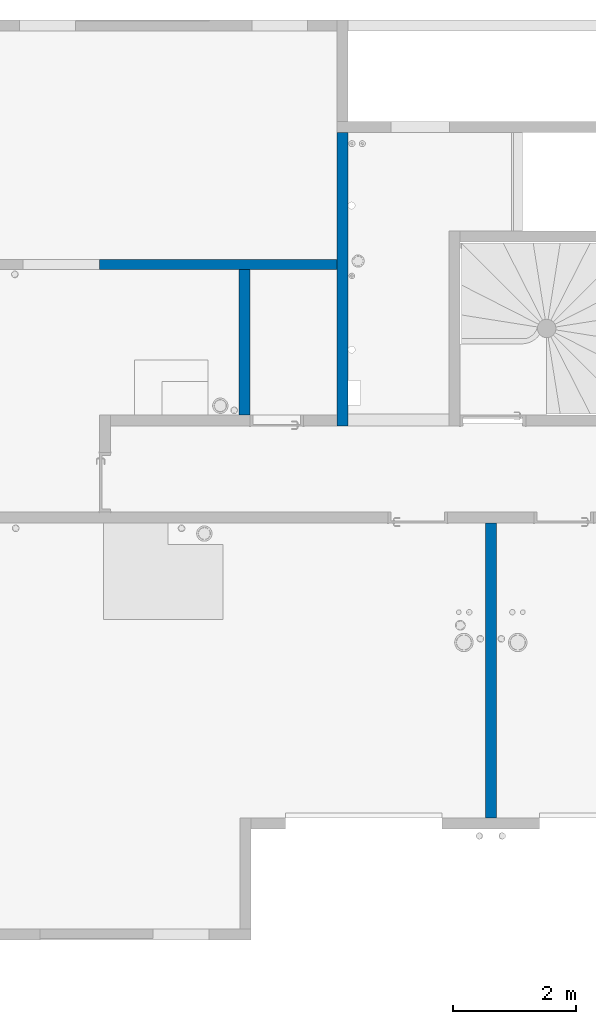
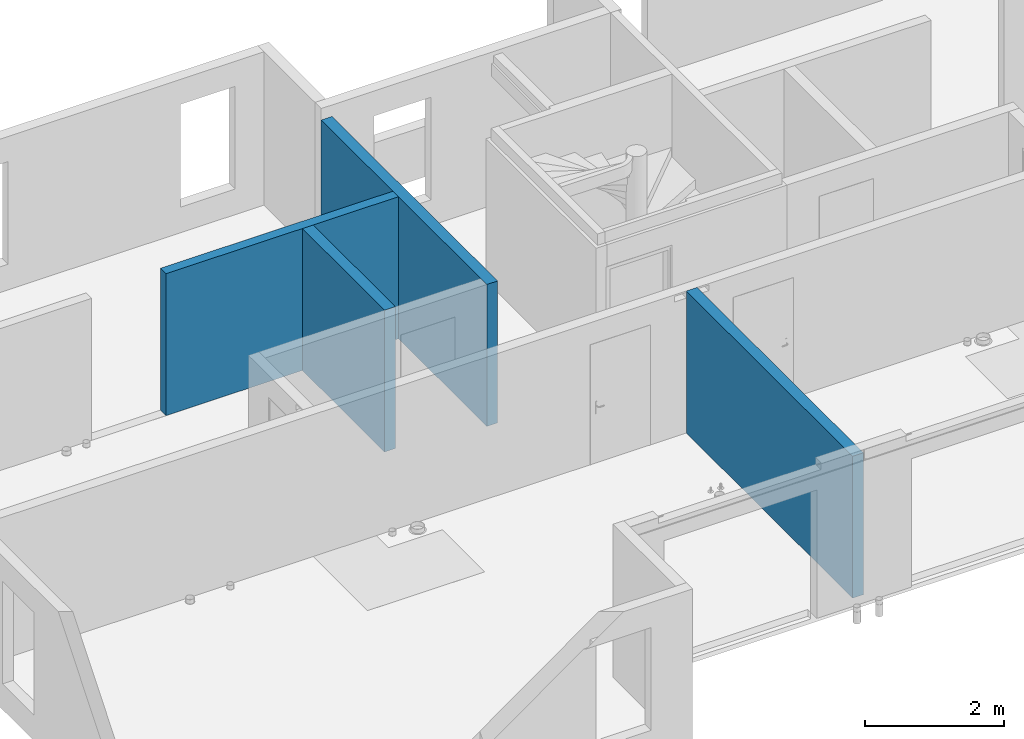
# One storey, part 8 of 30: 4 walls.
"""IFC2X3 building model written with IfcOpenShell, lengths in centimetres."""

from ifc_helpers import new_model, entity, si_unit, converted_unit, derived_unit, direction, frame, frame_2d, origin, place, context, subcontext, project, spatial, rectangle, extrude, material, layer, layer_set, layer_usage, type_object, element, save


model = new_model("IFC2X3")

# Units and contexts
model_context = context("Model", 3, precision=0.001, world=origin(), true_north=direction((6.12303176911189e-17, 1.0)))
body_context = subcontext(model_context, "Body", "Model", "MODEL_VIEW")
ifc_project = project(units=[si_unit("LENGTHUNIT", "METRE", prefix="CENTI"), si_unit("AREAUNIT", "SQUARE_METRE"), si_unit("VOLUMEUNIT", "CUBIC_METRE"), converted_unit("PLANEANGLEUNIT", "DEGREE", entity("IfcRatioMeasure", 0.0174532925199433), si_unit("PLANEANGLEUNIT", "RADIAN"), dimensions=[0, 0, 0, 0, 0, 0, 0]), si_unit("MASSUNIT", "GRAM", prefix="KILO"), derived_unit("MASSDENSITYUNIT", [(si_unit("MASSUNIT", "GRAM", prefix="KILO"), 1), (si_unit("LENGTHUNIT", "METRE"), -3)]), si_unit("TIMEUNIT", "SECOND"), si_unit("FREQUENCYUNIT", "HERTZ"), si_unit("THERMODYNAMICTEMPERATUREUNIT", "DEGREE_CELSIUS"), derived_unit("THERMALTRANSMITTANCEUNIT", [(si_unit("MASSUNIT", "GRAM", prefix="KILO"), 1), (si_unit("THERMODYNAMICTEMPERATUREUNIT", "KELVIN"), -1), (si_unit("TIMEUNIT", "SECOND"), -3)]), derived_unit("VOLUMETRICFLOWRATEUNIT", [(si_unit("LENGTHUNIT", "METRE"), 3), (si_unit("TIMEUNIT", "SECOND"), -1)]), si_unit("ELECTRICCURRENTUNIT", "AMPERE"), si_unit("ELECTRICVOLTAGEUNIT", "VOLT"), si_unit("POWERUNIT", "WATT"), si_unit("FORCEUNIT", "NEWTON"), si_unit("ILLUMINANCEUNIT", "LUX"), si_unit("LUMINOUSFLUXUNIT", "LUMEN"), si_unit("LUMINOUSINTENSITYUNIT", "CANDELA"), derived_unit("USERDEFINED", [(si_unit("MASSUNIT", "GRAM", prefix="KILO"), -1), (si_unit("LENGTHUNIT", "METRE"), -2), (si_unit("TIMEUNIT", "SECOND"), 3), (si_unit("LUMINOUSFLUXUNIT", "LUMEN"), 1)]), derived_unit("LINEARVELOCITYUNIT", [(si_unit("LENGTHUNIT", "METRE"), 1), (si_unit("TIMEUNIT", "SECOND"), -1)]), si_unit("PRESSUREUNIT", "PASCAL"), derived_unit("USERDEFINED", [(si_unit("LENGTHUNIT", "METRE"), -2), (si_unit("MASSUNIT", "GRAM", prefix="KILO"), 1), (si_unit("TIMEUNIT", "SECOND"), -2)])], contexts=[model_context])

# Site, building, storey
site_placement = place(None, origin())
site = spatial("IfcSite", under=ifc_project, at=site_placement, Name="Default", CompositionType="ELEMENT")
building_placement = place(site_placement, origin())
building = spatial("IfcBuilding", under=site, at=building_placement, Name="CAGE 03", CompositionType="ELEMENT")
storey_placement = place(building_placement, frame((0.0, 0.0, 610.0)))
storey = spatial("IfcBuildingStorey", under=building, at=storey_placement, Name="R+2", CompositionType="ELEMENT", Elevation=610.0)

# Walls
ifc_material = material(Name="Béton, C25/30")
ifc_layer_1 = layer(ifc_material, 18.0)
ifc_layer_set_1 = layer_set([ifc_layer_1], Name="Mur de base:Voile BA 18")
ifc_layer_usage_1 = layer_usage(ifc_layer_set_1, "AXIS2", "POSITIVE", -9.0)
wall_type_1 = type_object("IfcWallType", Name="Mur de base:Voile BA 18", PredefinedType="STANDARD", material=ifc_layer_set_1)
wall_1_placement = place(storey_placement, frame((7081.36582014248, 4474.6606660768, 0.0), z_axis=(0.0, 0.0, 1.0), x_axis=(0.0, -1.0, 0.0)))
element("IfcWallStandardCase", 1, at=wall_1_placement, inside=storey, type_object=wall_type_1, material=ifc_layer_usage_1, Name="Mur de base:Voile BA 18", ObjectType="Mur de base:Voile BA 18", context=body_context, shape_type="SweptSolid", body=[
    extrude(rectangle(XDim=480.000000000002, YDim=17.9999999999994, at=frame_2d((240.000000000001, 0.0), x_axis=(-1.0, 0.0))), origin(), (0.0, 0.0, 1.0), 250.0),
])
ifc_layer_usage_2 = layer_usage(ifc_layer_set_1, "AXIS2", "NEGATIVE", 9.0)
wall_2_placement = place(storey_placement, frame((6840.36582014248, 5110.6606660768, 0.0), z_axis=(0.0, 0.0, 1.0), x_axis=(0.0, -1.0, 0.0)))
element("IfcWallStandardCase", 2, at=wall_2_placement, inside=storey, type_object=wall_type_1, material=ifc_layer_usage_2, Name="Mur de base:Voile BA 18", ObjectType="Mur de base:Voile BA 18", context=body_context, shape_type="SweptSolid", body=[
    extrude(rectangle(XDim=478.0, YDim=17.9999999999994, at=frame_2d((239.0, 1.67865721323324e-13), x_axis=(-1.0, 0.0))), origin(), (0.0, 0.0, 1.0), 250.0),
])
ifc_layer_usage_3 = layer_usage(ifc_layer_set_1, "AXIS2", "POSITIVE", -9.0)
wall_3_placement = place(storey_placement, frame((6680.36582014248, 4650.6606660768, 0.0), z_axis=(0.0, 0.0, 1.0), x_axis=(0.0, 1.0, 0.0)))
element("IfcWallStandardCase", 3, at=wall_3_placement, inside=storey, type_object=wall_type_1, material=ifc_layer_usage_3, Name="Mur de base:Voile BA 18", ObjectType="Mur de base:Voile BA 18", context=body_context, shape_type="SweptSolid", body=[
    extrude(rectangle(XDim=237.000000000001, YDim=17.9999999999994, at=frame_2d((118.5, 2.16715534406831e-13), x_axis=(-1.0, 0.0))), origin(), (0.0, 0.0, 1.0), 250.0),
])
ifc_layer_2 = layer(ifc_material, 16.0)
ifc_layer_set_2 = layer_set([ifc_layer_2], Name="Mur de base:Voile BA 16")
ifc_layer_usage_4 = layer_usage(ifc_layer_set_2, "AXIS2", "NEGATIVE", 8.0)
wall_type_2 = type_object("IfcWallType", Name="Mur de base:Voile BA 16", PredefinedType="STANDARD", material=ifc_layer_set_2)
wall_4_placement = place(storey_placement, frame((6831.36582014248, 4895.6606660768, 0.0), z_axis=(0.0, 0.0, 1.0), x_axis=(-1.0, 0.0, 0.0)))
element("IfcWallStandardCase", 4, at=wall_4_placement, inside=storey, type_object=wall_type_2, material=ifc_layer_usage_4, Name="Mur de base:Voile BA 16", ObjectType="Mur de base:Voile BA 16", context=body_context, shape_type="SweptSolid", body=[
    extrude(rectangle(XDim=386.999999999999, YDim=15.9999999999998, at=frame_2d((193.5, 1.67421632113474e-13), x_axis=(-1.0, 0.0))), origin(), (0.0, 0.0, 1.0), 250.0),
])

save(model, "model.ifc")
